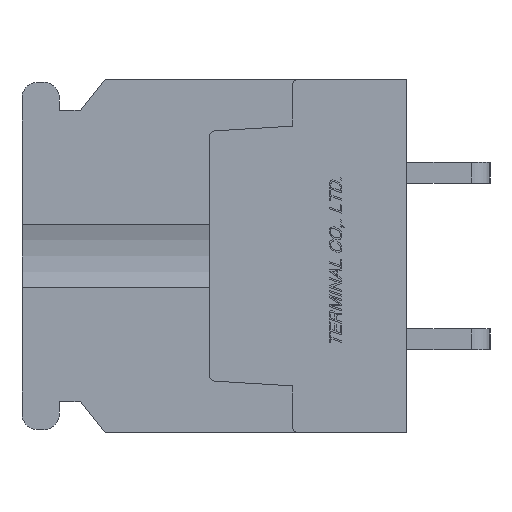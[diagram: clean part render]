
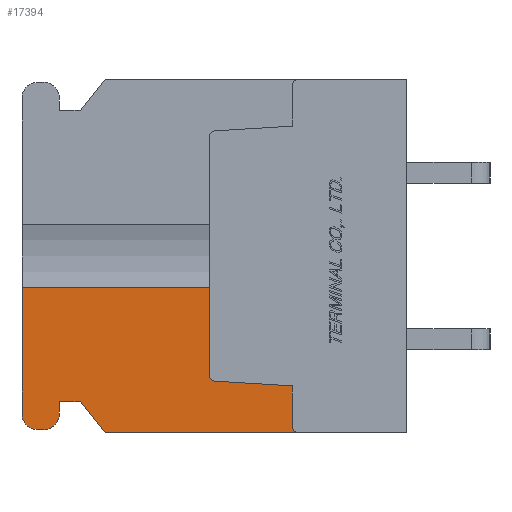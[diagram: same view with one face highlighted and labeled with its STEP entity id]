
A CAD part, left-side view. The second image highlights one B-rep face of the part: STEP entity #17394.
In plain terms, the highlighted planar face has unit normal (-1, 0, 0).
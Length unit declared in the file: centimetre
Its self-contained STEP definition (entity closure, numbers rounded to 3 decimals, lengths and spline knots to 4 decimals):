
#2141=VECTOR('',#21446,1.);
#2142=VECTOR('',#21447,1.);
#2143=VECTOR('',#21448,1.);
#2144=VECTOR('',#21451,1.);
#2145=VECTOR('',#21454,1.);
#2146=VECTOR('',#21455,1.);
#2147=VECTOR('',#21456,1.);
#2148=VECTOR('',#21457,1.);
#2149=VECTOR('',#21460,1.);
#2150=VECTOR('',#21461,1.);
#4016=LINE('',#26942,#2141);
#4017=LINE('',#26945,#2142);
#4018=LINE('',#26947,#2143);
#4019=LINE('',#26951,#2144);
#4020=LINE('',#26955,#2145);
#4021=LINE('',#26957,#2146);
#4022=LINE('',#26959,#2147);
#4023=LINE('',#26961,#2148);
#4024=LINE('',#26965,#2149);
#4025=LINE('',#26967,#2150);
#5839=VERTEX_POINT('',#26943);
#5840=VERTEX_POINT('',#26944);
#5841=VERTEX_POINT('',#26946);
#5842=VERTEX_POINT('',#26948);
#5843=VERTEX_POINT('',#26950);
#5844=VERTEX_POINT('',#26952);
#5845=VERTEX_POINT('',#26954);
#5846=VERTEX_POINT('',#26956);
#5847=VERTEX_POINT('',#26958);
#5848=VERTEX_POINT('',#26960);
#5849=VERTEX_POINT('',#26962);
#5850=VERTEX_POINT('',#26964);
#5851=VERTEX_POINT('',#26966);
#5852=VERTEX_POINT('',#26968);
#6595=CIRCLE('',#29695,0.075);
#6596=CIRCLE('',#29696,0.075);
#6597=CIRCLE('',#29697,0.03);
#6598=CIRCLE('',#29698,0.03);
#8668=EDGE_CURVE('',#5839,#5840,#4016,.T.);
#8669=EDGE_CURVE('',#5839,#5841,#4017,.T.);
#8670=EDGE_CURVE('',#5842,#5841,#4018,.T.);
#8671=EDGE_CURVE('',#5843,#5842,#6595,.T.);
#8672=EDGE_CURVE('',#5844,#5843,#4019,.T.);
#8673=EDGE_CURVE('',#5845,#5844,#6596,.T.);
#8674=EDGE_CURVE('',#5846,#5845,#4020,.T.);
#8675=EDGE_CURVE('',#5847,#5846,#4021,.T.);
#8676=EDGE_CURVE('',#5848,#5847,#4022,.T.);
#8677=EDGE_CURVE('',#5849,#5848,#4023,.T.);
#8678=EDGE_CURVE('',#5850,#5849,#6597,.T.);
#8679=EDGE_CURVE('',#5851,#5850,#4024,.T.);
#8680=EDGE_CURVE('',#5852,#5851,#4025,.T.);
#8681=EDGE_CURVE('',#5840,#5852,#6598,.T.);
#13199=ORIENTED_EDGE('',*,*,#8668,.F.);
#13200=ORIENTED_EDGE('',*,*,#8669,.T.);
#13201=ORIENTED_EDGE('',*,*,#8670,.F.);
#13202=ORIENTED_EDGE('',*,*,#8671,.F.);
#13203=ORIENTED_EDGE('',*,*,#8672,.F.);
#13204=ORIENTED_EDGE('',*,*,#8673,.F.);
#13205=ORIENTED_EDGE('',*,*,#8674,.F.);
#13206=ORIENTED_EDGE('',*,*,#8675,.F.);
#13207=ORIENTED_EDGE('',*,*,#8676,.F.);
#13208=ORIENTED_EDGE('',*,*,#8677,.F.);
#13209=ORIENTED_EDGE('',*,*,#8678,.F.);
#13210=ORIENTED_EDGE('',*,*,#8679,.F.);
#13211=ORIENTED_EDGE('',*,*,#8680,.F.);
#13212=ORIENTED_EDGE('',*,*,#8681,.F.);
#15313=EDGE_LOOP('',(#13199,#13200,#13201,#13202,#13203,#13204,#13205,#13206,
#13207,#13208,#13209,#13210,#13211,#13212));
#16391=FACE_BOUND('',#15313,.T.);
#17394=ADVANCED_FACE('',(#16391),#18106,.F.);
#18106=PLANE('',#29694);
#21445=DIRECTION('',(1.,0.,0.));
#21446=DIRECTION('',(0.,0.,-1.));
#21447=DIRECTION('',(0.,1.,0.));
#21448=DIRECTION('',(0.,0.,1.));
#21449=DIRECTION('',(1.,0.,0.));
#21450=DIRECTION('',(0.,0.,-0.075));
#21451=DIRECTION('',(0.,1.,0.));
#21452=DIRECTION('',(1.,0.,0.));
#21453=DIRECTION('',(0.,0.,-0.075));
#21454=DIRECTION('',(0.,0.,-1.));
#21455=DIRECTION('',(0.,1.,0.));
#21456=DIRECTION('',(0.,0.625,0.781));
#21457=DIRECTION('',(0.,1.,0.));
#21458=DIRECTION('',(-1.,0.,0.));
#21459=DIRECTION('',(0.,0.,0.03));
#21460=DIRECTION('',(0.,0.,-1.));
#21461=DIRECTION('',(0.,-0.998,-0.061));
#21462=DIRECTION('',(-1.,0.,0.));
#21463=DIRECTION('',(0.,0.,0.03));
#26941=CARTESIAN_POINT('',(-1.1,0.9454,0.));
#26942=CARTESIAN_POINT('',(-1.1,0.95,0.5718));
#26943=CARTESIAN_POINT('',(-1.1,0.95,-0.1521));
#26944=CARTESIAN_POINT('',(-1.1,0.95,-0.5718));
#26945=CARTESIAN_POINT('',(-1.1,1.4,-0.1521));
#26946=CARTESIAN_POINT('',(-1.1,1.85,-0.1521));
#26947=CARTESIAN_POINT('',(-1.1,1.85,-0.76));
#26948=CARTESIAN_POINT('',(-1.1,1.85,-0.76));
#26949=CARTESIAN_POINT('',(-1.1,1.775,-0.76));
#26950=CARTESIAN_POINT('',(-1.1,1.775,-0.835));
#26951=CARTESIAN_POINT('',(-1.1,1.745,-0.835));
#26952=CARTESIAN_POINT('',(-1.1,1.745,-0.835));
#26953=CARTESIAN_POINT('',(-1.1,1.745,-0.76));
#26954=CARTESIAN_POINT('',(-1.1,1.67,-0.76));
#26955=CARTESIAN_POINT('',(-1.1,1.67,-0.7));
#26956=CARTESIAN_POINT('',(-1.1,1.67,-0.7));
#26957=CARTESIAN_POINT('',(-1.1,1.57,-0.7));
#26958=CARTESIAN_POINT('',(-1.1,1.57,-0.7));
#26959=CARTESIAN_POINT('',(-1.1,1.45,-0.85));
#26960=CARTESIAN_POINT('',(-1.1,1.45,-0.85));
#26961=CARTESIAN_POINT('',(-1.1,0.,-0.85));
#26962=CARTESIAN_POINT('',(-1.1,0.52,-0.85));
#26963=CARTESIAN_POINT('',(-1.1,0.52,-0.82));
#26964=CARTESIAN_POINT('',(-1.1,0.55,-0.82));
#26965=CARTESIAN_POINT('',(-1.1,0.55,-0.6245));
#26966=CARTESIAN_POINT('',(-1.1,0.55,-0.6245));
#26967=CARTESIAN_POINT('',(-1.1,0.9218,-0.6017));
#26968=CARTESIAN_POINT('',(-1.1,0.9218,-0.6017));
#26969=CARTESIAN_POINT('',(-1.1,0.92,-0.5718));
#29694=AXIS2_PLACEMENT_3D('',#26941,#21445,$);
#29695=AXIS2_PLACEMENT_3D('',#26949,#21449,#21450);
#29696=AXIS2_PLACEMENT_3D('',#26953,#21452,#21453);
#29697=AXIS2_PLACEMENT_3D('',#26963,#21458,#21459);
#29698=AXIS2_PLACEMENT_3D('',#26969,#21462,#21463);
